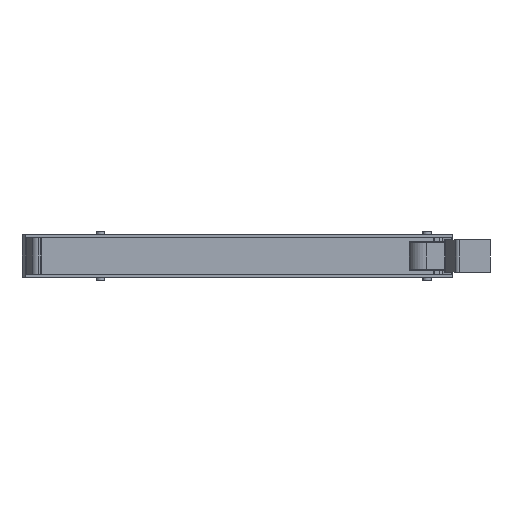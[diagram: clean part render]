
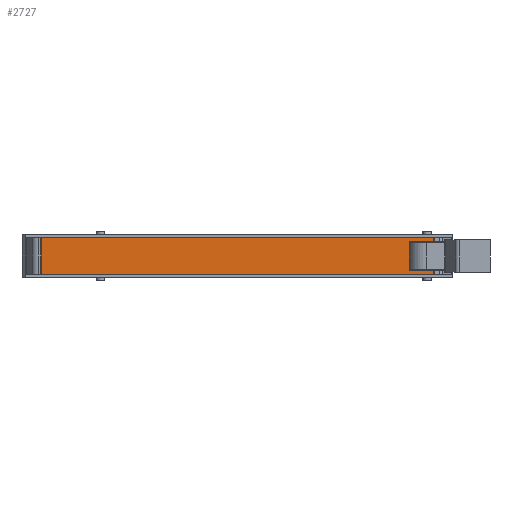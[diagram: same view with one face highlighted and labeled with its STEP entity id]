
A CAD part, front view. The second image highlights one B-rep face of the part: STEP entity #2727.
In plain terms, the highlighted planar face has unit normal (0, -1, 0).
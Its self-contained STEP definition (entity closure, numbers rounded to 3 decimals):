
#8 = EDGE_CURVE ( 'NONE', #3768, #1990, #2881, .T. ) ;
#291 = CARTESIAN_POINT ( 'NONE',  ( -113.5, -59.5, 1.7 ) ) ;
#489 = CARTESIAN_POINT ( 'NONE',  ( -113.5, -59.5, 23.3 ) ) ;
#912 = DIRECTION ( 'NONE',  ( 1., 0., 0. ) ) ;
#953 = DIRECTION ( 'NONE',  ( 0., 0., 1. ) ) ;
#1029 = CARTESIAN_POINT ( 'NONE',  ( -113.5, -59.5, 23.3 ) ) ;
#1130 = EDGE_LOOP ( 'NONE', ( #4029, #2586, #1187, #4752 ) ) ;
#1184 = CARTESIAN_POINT ( 'NONE',  ( -113.5, -59.5, 1.7 ) ) ;
#1187 = ORIENTED_EDGE ( 'NONE', *, *, #2108, .T. ) ;
#1193 = DIRECTION ( 'NONE',  ( -1., 0., 0. ) ) ;
#1251 = DIRECTION ( 'NONE',  ( 0., 0., 1. ) ) ;
#1275 = CARTESIAN_POINT ( 'NONE',  ( -113.5, -59.5, -249.682 ) ) ;
#1435 = VERTEX_POINT ( 'NONE', #3807 ) ;
#1623 = DIRECTION ( 'NONE',  ( 0., 0., -1. ) ) ;
#1675 = DIRECTION ( 'NONE',  ( 0., -1., 0. ) ) ;
#1707 = PLANE ( 'NONE',  #4780 ) ;
#1875 = VERTEX_POINT ( 'NONE', #4507 ) ;
#1990 = VERTEX_POINT ( 'NONE', #1029 ) ;
#2056 = CARTESIAN_POINT ( 'NONE',  ( -113.5, -59.5, -249.682 ) ) ;
#2108 = EDGE_CURVE ( 'NONE', #1435, #1875, #4431, .T. ) ;
#2586 = ORIENTED_EDGE ( 'NONE', *, *, #3562, .F. ) ;
#2604 = VECTOR ( 'NONE', #1251, 1000. ) ;
#2727 = ADVANCED_FACE ( 'NONE', ( #4538 ), #1707, .T. ) ;
#2771 = EDGE_CURVE ( 'NONE', #1990, #1875, #4396, .T. ) ;
#2881 = LINE ( 'NONE', #1275, #2604 ) ;
#3270 = VECTOR ( 'NONE', #953, 1000. ) ;
#3562 = EDGE_CURVE ( 'NONE', #1435, #3768, #4475, .T. ) ;
#3768 = VERTEX_POINT ( 'NONE', #291 ) ;
#3807 = CARTESIAN_POINT ( 'NONE',  ( 117., -59.5, 1.7 ) ) ;
#3873 = VECTOR ( 'NONE', #1193, 1000. ) ;
#4029 = ORIENTED_EDGE ( 'NONE', *, *, #8, .F. ) ;
#4313 = CARTESIAN_POINT ( 'NONE',  ( 117., -59.5, -249.682 ) ) ;
#4396 = LINE ( 'NONE', #489, #4403 ) ;
#4403 = VECTOR ( 'NONE', #912, 1000. ) ;
#4431 = LINE ( 'NONE', #4313, #3270 ) ;
#4475 = LINE ( 'NONE', #1184, #3873 ) ;
#4507 = CARTESIAN_POINT ( 'NONE',  ( 117., -59.5, 23.3 ) ) ;
#4538 = FACE_OUTER_BOUND ( 'NONE', #1130, .T. ) ;
#4752 = ORIENTED_EDGE ( 'NONE', *, *, #2771, .F. ) ;
#4780 = AXIS2_PLACEMENT_3D ( 'NONE', #2056, #1675, #1623 ) ;
